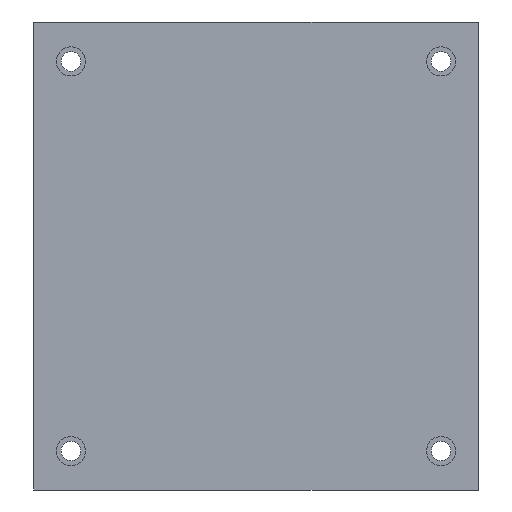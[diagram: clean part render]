
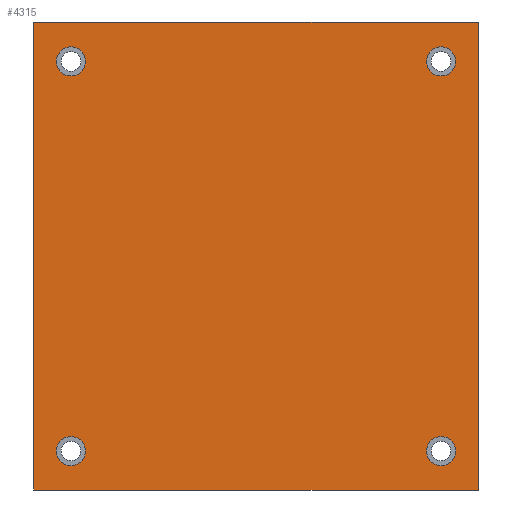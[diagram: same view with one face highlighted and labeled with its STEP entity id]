
A CAD part, front view. The second image highlights one B-rep face of the part: STEP entity #4315.
In plain terms, the highlighted planar face has unit normal (0, -1, 0).
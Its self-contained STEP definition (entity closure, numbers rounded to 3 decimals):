
#49 = VERTEX_POINT ( 'NONE', #2741 ) ;
#79 = DIRECTION ( 'NONE',  ( 0., 1., 0. ) ) ;
#195 = CIRCLE ( 'NONE', #4068, 1.9 ) ;
#217 = ORIENTED_EDGE ( 'NONE', *, *, #3775, .T. ) ;
#224 = AXIS2_PLACEMENT_3D ( 'NONE', #6585, #3607, #575 ) ;
#251 = DIRECTION ( 'NONE',  ( 0., 0., 1. ) ) ;
#256 = DIRECTION ( 'NONE',  ( 0., 0., -1. ) ) ;
#270 = LINE ( 'NONE', #5464, #2159 ) ;
#351 = VERTEX_POINT ( 'NONE', #5598 ) ;
#436 = AXIS2_PLACEMENT_3D ( 'NONE', #4847, #4243, #2981 ) ;
#575 = DIRECTION ( 'NONE',  ( 0., 0., 1. ) ) ;
#625 = ORIENTED_EDGE ( 'NONE', *, *, #2829, .T. ) ;
#653 = VECTOR ( 'NONE', #5454, 1000. ) ;
#801 = CARTESIAN_POINT ( 'NONE',  ( 7.748, 0., -69.068 ) ) ;
#810 = ORIENTED_EDGE ( 'NONE', *, *, #4193, .T. ) ;
#820 = CARTESIAN_POINT ( 'NONE',  ( 65.66, 0., -8.108 ) ) ;
#856 = ORIENTED_EDGE ( 'NONE', *, *, #4792, .T. ) ;
#938 = FACE_BOUND ( 'NONE', #7463, .T. ) ;
#983 = AXIS2_PLACEMENT_3D ( 'NONE', #5642, #6265, #251 ) ;
#1009 = PLANE ( 'NONE',  #5515 ) ;
#1112 = EDGE_LOOP ( 'NONE', ( #1642, #810 ) ) ;
#1210 = CIRCLE ( 'NONE', #5837, 1.9 ) ;
#1593 = CARTESIAN_POINT ( 'NONE',  ( 60.834, 0., -63.988 ) ) ;
#1619 = ORIENTED_EDGE ( 'NONE', *, *, #2264, .T. ) ;
#1622 = CARTESIAN_POINT ( 'NONE',  ( 7.748, 0., -69.068 ) ) ;
#1642 = ORIENTED_EDGE ( 'NONE', *, *, #6682, .T. ) ;
#1750 = EDGE_CURVE ( 'NONE', #3618, #49, #7283, .T. ) ;
#1809 = CARTESIAN_POINT ( 'NONE',  ( 12.574, 0., -63.988 ) ) ;
#1856 = CARTESIAN_POINT ( 'NONE',  ( 7.748, 0., -8.108 ) ) ;
#1927 = CARTESIAN_POINT ( 'NONE',  ( 60.834, 0., -63.988 ) ) ;
#1933 = DIRECTION ( 'NONE',  ( 1., 0., 0. ) ) ;
#2047 = DIRECTION ( 'NONE',  ( 0., 1., 0. ) ) ;
#2087 = CARTESIAN_POINT ( 'NONE',  ( 60.834, 0., -13.188 ) ) ;
#2128 = AXIS2_PLACEMENT_3D ( 'NONE', #6882, #2047, #7296 ) ;
#2159 = VECTOR ( 'NONE', #5513, 1000. ) ;
#2264 = EDGE_CURVE ( 'NONE', #4128, #7521, #2272, .T. ) ;
#2272 = LINE ( 'NONE', #1856, #653 ) ;
#2628 = EDGE_LOOP ( 'NONE', ( #4939, #625 ) ) ;
#2741 = CARTESIAN_POINT ( 'NONE',  ( 12.574, 0., -15.088 ) ) ;
#2757 = VERTEX_POINT ( 'NONE', #5373 ) ;
#2829 = EDGE_CURVE ( 'NONE', #5290, #3241, #6289, .T. ) ;
#2843 = FACE_BOUND ( 'NONE', #2628, .T. ) ;
#2846 = DIRECTION ( 'NONE',  ( 0., 0., 1. ) ) ;
#2900 = CARTESIAN_POINT ( 'NONE',  ( 12.574, 0., -11.288 ) ) ;
#2981 = DIRECTION ( 'NONE',  ( 0., 0., 1. ) ) ;
#3016 = FACE_BOUND ( 'NONE', #7598, .T. ) ;
#3062 = ORIENTED_EDGE ( 'NONE', *, *, #5840, .T. ) ;
#3200 = FACE_BOUND ( 'NONE', #1112, .T. ) ;
#3241 = VERTEX_POINT ( 'NONE', #5259 ) ;
#3263 = CIRCLE ( 'NONE', #436, 1.9 ) ;
#3323 = DIRECTION ( 'NONE',  ( 0., 0., 1. ) ) ;
#3505 = ORIENTED_EDGE ( 'NONE', *, *, #3742, .T. ) ;
#3516 = VECTOR ( 'NONE', #1933, 1000. ) ;
#3607 = DIRECTION ( 'NONE',  ( 0., 1., 0. ) ) ;
#3618 = VERTEX_POINT ( 'NONE', #2900 ) ;
#3698 = DIRECTION ( 'NONE',  ( 0., 0., 1. ) ) ;
#3742 = EDGE_CURVE ( 'NONE', #6397, #351, #5674, .T. ) ;
#3775 = EDGE_CURVE ( 'NONE', #2757, #7796, #5105, .T. ) ;
#3812 = CARTESIAN_POINT ( 'NONE',  ( 7.748, 0., -8.108 ) ) ;
#4068 = AXIS2_PLACEMENT_3D ( 'NONE', #1593, #7650, #2846 ) ;
#4128 = VERTEX_POINT ( 'NONE', #820 ) ;
#4193 = EDGE_CURVE ( 'NONE', #5704, #7155, #6609, .T. ) ;
#4243 = DIRECTION ( 'NONE',  ( 0., 1., 0. ) ) ;
#4282 = CARTESIAN_POINT ( 'NONE',  ( 60.834, 0., -65.888 ) ) ;
#4315 = ADVANCED_FACE ( 'NONE', ( #6894, #3200, #2843, #938, #3016 ), #1009, .T. ) ;
#4356 = EDGE_CURVE ( 'NONE', #3241, #5290, #195, .T. ) ;
#4589 = VECTOR ( 'NONE', #256, 1000. ) ;
#4696 = CARTESIAN_POINT ( 'NONE',  ( 12.574, 0., -65.888 ) ) ;
#4792 = EDGE_CURVE ( 'NONE', #351, #6397, #1210, .T. ) ;
#4847 = CARTESIAN_POINT ( 'NONE',  ( 12.574, 0., -13.188 ) ) ;
#4936 = ORIENTED_EDGE ( 'NONE', *, *, #5371, .T. ) ;
#4939 = ORIENTED_EDGE ( 'NONE', *, *, #4356, .T. ) ;
#5105 = LINE ( 'NONE', #6532, #3516 ) ;
#5133 = ORIENTED_EDGE ( 'NONE', *, *, #1750, .T. ) ;
#5162 = DIRECTION ( 'NONE',  ( 0., 1., 0. ) ) ;
#5239 = EDGE_CURVE ( 'NONE', #7796, #4128, #270, .T. ) ;
#5259 = CARTESIAN_POINT ( 'NONE',  ( 60.834, 0., -62.088 ) ) ;
#5290 = VERTEX_POINT ( 'NONE', #4282 ) ;
#5371 = EDGE_CURVE ( 'NONE', #7521, #2757, #7333, .T. ) ;
#5373 = CARTESIAN_POINT ( 'NONE',  ( 7.748, 0., -69.068 ) ) ;
#5454 = DIRECTION ( 'NONE',  ( -1., 0., 0. ) ) ;
#5464 = CARTESIAN_POINT ( 'NONE',  ( 65.66, 0., -69.068 ) ) ;
#5513 = DIRECTION ( 'NONE',  ( 0., 0., 1. ) ) ;
#5515 = AXIS2_PLACEMENT_3D ( 'NONE', #1622, #7624, #7088 ) ;
#5598 = CARTESIAN_POINT ( 'NONE',  ( 60.834, 0., -11.288 ) ) ;
#5642 = CARTESIAN_POINT ( 'NONE',  ( 12.574, 0., -63.988 ) ) ;
#5674 = CIRCLE ( 'NONE', #224, 1.9 ) ;
#5704 = VERTEX_POINT ( 'NONE', #4696 ) ;
#5837 = AXIS2_PLACEMENT_3D ( 'NONE', #2087, #5162, #3323 ) ;
#5840 = EDGE_CURVE ( 'NONE', #49, #3618, #3263, .T. ) ;
#5976 = EDGE_LOOP ( 'NONE', ( #7441, #1619, #4936, #217 ) ) ;
#6179 = CARTESIAN_POINT ( 'NONE',  ( 60.834, 0., -15.088 ) ) ;
#6265 = DIRECTION ( 'NONE',  ( 0., 1., 0. ) ) ;
#6289 = CIRCLE ( 'NONE', #6850, 1.9 ) ;
#6397 = VERTEX_POINT ( 'NONE', #6179 ) ;
#6532 = CARTESIAN_POINT ( 'NONE',  ( 7.748, 0., -69.068 ) ) ;
#6585 = CARTESIAN_POINT ( 'NONE',  ( 60.834, 0., -13.188 ) ) ;
#6607 = AXIS2_PLACEMENT_3D ( 'NONE', #1809, #7274, #3698 ) ;
#6609 = CIRCLE ( 'NONE', #983, 1.9 ) ;
#6682 = EDGE_CURVE ( 'NONE', #7155, #5704, #7662, .T. ) ;
#6850 = AXIS2_PLACEMENT_3D ( 'NONE', #1927, #79, #7357 ) ;
#6882 = CARTESIAN_POINT ( 'NONE',  ( 12.574, 0., -13.188 ) ) ;
#6894 = FACE_OUTER_BOUND ( 'NONE', #5976, .T. ) ;
#7088 = DIRECTION ( 'NONE',  ( 0., 0., -1. ) ) ;
#7155 = VERTEX_POINT ( 'NONE', #7758 ) ;
#7274 = DIRECTION ( 'NONE',  ( 0., 1., 0. ) ) ;
#7283 = CIRCLE ( 'NONE', #2128, 1.9 ) ;
#7296 = DIRECTION ( 'NONE',  ( 0., 0., 1. ) ) ;
#7333 = LINE ( 'NONE', #801, #4589 ) ;
#7357 = DIRECTION ( 'NONE',  ( 0., 0., 1. ) ) ;
#7441 = ORIENTED_EDGE ( 'NONE', *, *, #5239, .T. ) ;
#7463 = EDGE_LOOP ( 'NONE', ( #856, #3505 ) ) ;
#7521 = VERTEX_POINT ( 'NONE', #3812 ) ;
#7598 = EDGE_LOOP ( 'NONE', ( #5133, #3062 ) ) ;
#7620 = CARTESIAN_POINT ( 'NONE',  ( 65.66, 0., -69.068 ) ) ;
#7624 = DIRECTION ( 'NONE',  ( 0., -1., 0. ) ) ;
#7650 = DIRECTION ( 'NONE',  ( 0., 1., 0. ) ) ;
#7662 = CIRCLE ( 'NONE', #6607, 1.9 ) ;
#7758 = CARTESIAN_POINT ( 'NONE',  ( 12.574, 0., -62.088 ) ) ;
#7796 = VERTEX_POINT ( 'NONE', #7620 ) ;
